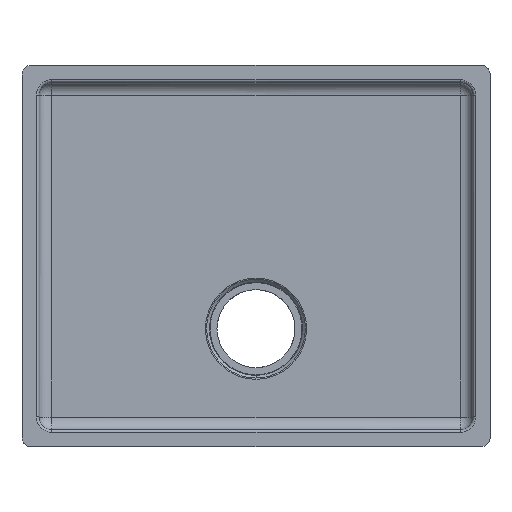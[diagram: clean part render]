
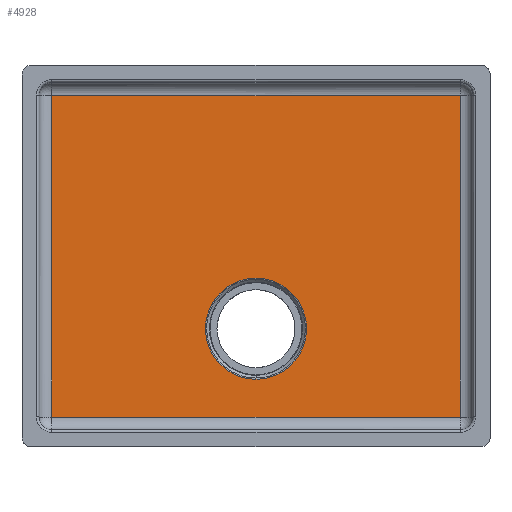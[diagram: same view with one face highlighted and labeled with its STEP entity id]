
A CAD part, top view. The second image highlights one B-rep face of the part: STEP entity #4928.
In plain terms, the highlighted planar face has unit normal (0, 0, 1).
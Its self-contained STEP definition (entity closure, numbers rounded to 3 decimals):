
#4638=CARTESIAN_POINT('Vertex',(0.,-25.172,-195.)) ;
#4642=CARTESIAN_POINT('Control Point',(0.,-25.172,-195.)) ;
#4643=CARTESIAN_POINT('Control Point',(-0.181,-25.172,-195.)) ;
#4644=CARTESIAN_POINT('Control Point',(-0.361,-25.172,-195.)) ;
#4645=CARTESIAN_POINT('Control Point',(-0.542,-25.174,-195.)) ;
#4646=CARTESIAN_POINT('Control Point',(-6.437,-25.242,-195.)) ;
#4647=CARTESIAN_POINT('Control Point',(-12.32,-26.055,-195.)) ;
#4648=CARTESIAN_POINT('Control Point',(-17.897,-27.542,-195.)) ;
#4649=CARTESIAN_POINT('Control Point',(-28.513,-31.825,-195.)) ;
#4650=CARTESIAN_POINT('Control Point',(-37.79,-38.528,-195.)) ;
#4651=CARTESIAN_POINT('Control Point',(-41.974,-42.406,-195.)) ;
#4652=CARTESIAN_POINT('Control Point',(-49.322,-51.099,-195.)) ;
#4653=CARTESIAN_POINT('Control Point',(-54.383,-61.295,-195.)) ;
#4654=CARTESIAN_POINT('Control Point',(-56.28,-66.676,-195.)) ;
#4655=CARTESIAN_POINT('Control Point',(-58.735,-77.789,-195.)) ;
#4656=CARTESIAN_POINT('Control Point',(-58.468,-89.165,-195.)) ;
#4657=CARTESIAN_POINT('Control Point',(-57.642,-94.81,-195.)) ;
#4658=CARTESIAN_POINT('Control Point',(-54.829,-105.102,-195.)) ;
#4659=CARTESIAN_POINT('Control Point',(-49.788,-114.488,-195.)) ;
#4660=CARTESIAN_POINT('Control Point',(-46.979,-118.601,-195.)) ;
#4661=CARTESIAN_POINT('Control Point',(-38.057,-129.075,-195.)) ;
#4662=CARTESIAN_POINT('Control Point',(-26.373,-136.64,-195.)) ;
#4663=CARTESIAN_POINT('Control Point',(-18.081,-140.003,-195.)) ;
#4664=CARTESIAN_POINT('Control Point',(-9.235,-141.757,-195.)) ;
#4665=CARTESIAN_POINT('Control Point',(-0.371,-141.827,-195.)) ;
#4666=CARTESIAN_POINT('Control Point',(-0.247,-141.828,-195.)) ;
#4667=CARTESIAN_POINT('Control Point',(-0.124,-141.828,-195.)) ;
#4668=CARTESIAN_POINT('Control Point',(0.,-141.828,-195.)) ;
#4669=CARTESIAN_POINT('Vertex',(0.,-141.828,-195.)) ;
#4850=CARTESIAN_POINT('Control Point',(0.,-25.172,-195.)) ;
#4851=CARTESIAN_POINT('Control Point',(0.104,-25.172,-195.)) ;
#4852=CARTESIAN_POINT('Control Point',(0.208,-25.172,-195.)) ;
#4853=CARTESIAN_POINT('Control Point',(0.313,-25.172,-195.)) ;
#4854=CARTESIAN_POINT('Control Point',(6.597,-25.214,-195.)) ;
#4855=CARTESIAN_POINT('Control Point',(12.874,-26.103,-195.)) ;
#4856=CARTESIAN_POINT('Control Point',(18.894,-27.794,-195.)) ;
#4857=CARTESIAN_POINT('Control Point',(29.85,-32.517,-195.)) ;
#4858=CARTESIAN_POINT('Control Point',(39.269,-39.814,-195.)) ;
#4859=CARTESIAN_POINT('Control Point',(43.321,-43.829,-195.)) ;
#4860=CARTESIAN_POINT('Control Point',(50.375,-52.762,-195.)) ;
#4861=CARTESIAN_POINT('Control Point',(55.093,-63.121,-195.)) ;
#4862=CARTESIAN_POINT('Control Point',(56.81,-68.562,-195.)) ;
#4863=CARTESIAN_POINT('Control Point',(58.893,-79.75,-195.)) ;
#4864=CARTESIAN_POINT('Control Point',(58.246,-91.112,-195.)) ;
#4865=CARTESIAN_POINT('Control Point',(57.233,-96.726,-195.)) ;
#4866=CARTESIAN_POINT('Control Point',(53.867,-107.598,-195.)) ;
#4867=CARTESIAN_POINT('Control Point',(48.004,-117.355,-195.)) ;
#4868=CARTESIAN_POINT('Control Point',(44.493,-121.852,-195.)) ;
#4869=CARTESIAN_POINT('Control Point',(35.071,-131.291,-195.)) ;
#4870=CARTESIAN_POINT('Control Point',(23.33,-137.776,-195.)) ;
#4871=CARTESIAN_POINT('Control Point',(16.046,-140.357,-195.)) ;
#4872=CARTESIAN_POINT('Control Point',(8.298,-141.738,-195.)) ;
#4873=CARTESIAN_POINT('Control Point',(0.529,-141.826,-195.)) ;
#4874=CARTESIAN_POINT('Control Point',(0.353,-141.828,-195.)) ;
#4875=CARTESIAN_POINT('Control Point',(0.176,-141.828,-195.)) ;
#4876=CARTESIAN_POINT('Control Point',(0.,-141.828,-195.)) ;
#4885=CARTESIAN_POINT('Axis2P3D Location',(-235.5,200.5,-195.)) ;
#4890=CARTESIAN_POINT('Line Origine',(-235.5,200.5,-195.)) ;
#4894=CARTESIAN_POINT('Vertex',(-235.5,-185.5,-195.)) ;
#4896=CARTESIAN_POINT('Vertex',(-235.5,185.5,-195.)) ;
#4899=CARTESIAN_POINT('Line Origine',(-235.5,-185.5,-195.)) ;
#4903=CARTESIAN_POINT('Vertex',(235.5,-185.5,-195.)) ;
#4906=CARTESIAN_POINT('Line Origine',(235.5,200.5,-195.)) ;
#4910=CARTESIAN_POINT('Vertex',(235.5,185.5,-195.)) ;
#4913=CARTESIAN_POINT('Line Origine',(-235.5,185.5,-195.)) ;
#4886=DIRECTION('Axis2P3D Direction',(0.,0.,-1.)) ;
#4887=DIRECTION('Axis2P3D XDirection',(0.,1.,0.)) ;
#4891=DIRECTION('Vector Direction',(0.,1.,0.)) ;
#4900=DIRECTION('Vector Direction',(1.,0.,0.)) ;
#4907=DIRECTION('Vector Direction',(0.,1.,0.)) ;
#4914=DIRECTION('Vector Direction',(1.,0.,0.)) ;
#4888=AXIS2_PLACEMENT_3D('Plane Axis2P3D',#4885,#4886,#4887) ;
#4919=ORIENTED_EDGE('',*,*,#4898,.F.) ;
#4920=ORIENTED_EDGE('',*,*,#4905,.F.) ;
#4921=ORIENTED_EDGE('',*,*,#4912,.F.) ;
#4922=ORIENTED_EDGE('',*,*,#4917,.F.) ;
#4925=ORIENTED_EDGE('',*,*,#4877,.F.) ;
#4926=ORIENTED_EDGE('',*,*,#4671,.F.) ;
#4927=FACE_BOUND('',#4924,.T.) ;
#4892=VECTOR('Line Direction',#4891,1.) ;
#4901=VECTOR('Line Direction',#4900,1.) ;
#4908=VECTOR('Line Direction',#4907,1.) ;
#4915=VECTOR('Line Direction',#4914,1.) ;
#4928=ADVANCED_FACE('Vasca',(#4923,#4927),#4889,.F.) ;
#4641=B_SPLINE_CURVE_WITH_KNOTS('',5,(#4642,#4643,#4644,#4645,#4646,#4647,#4648,#4649,#4650,#4651,#4652,#4653,#4654,#4655,#4656,#4657,#4658,#4659,#4660,#4661,#4662,#4663,#4664,#4665,#4666,#4667,#4668),.UNSPECIFIED.,.F.,.U.,(6,3,3,3,3,3,3,3,6),(91.938,93.184,132.638,171.646,210.653,249.665,283.795,344.138,344.992),.UNSPECIFIED.) ;
#4849=B_SPLINE_CURVE_WITH_KNOTS('',5,(#4850,#4851,#4852,#4853,#4854,#4855,#4856,#4857,#4858,#4859,#4860,#4861,#4862,#4863,#4864,#4865,#4866,#4867,#4868,#4869,#4870,#4871,#4872,#4873,#4874,#4875,#4876),.UNSPECIFIED.,.F.,.U.,(6,3,3,3,3,3,3,3,6),(87.967,88.689,131.356,170.361,209.372,248.382,287.388,339.804,341.022),.UNSPECIFIED.) ;
#4671=EDGE_CURVE('',#4639,#4670,#4641,.T.) ;
#4877=EDGE_CURVE('',#4670,#4639,#4849,.F.) ;
#4898=EDGE_CURVE('',#4895,#4897,#4893,.T.) ;
#4905=EDGE_CURVE('',#4904,#4895,#4902,.F.) ;
#4912=EDGE_CURVE('',#4911,#4904,#4909,.F.) ;
#4917=EDGE_CURVE('',#4897,#4911,#4916,.T.) ;
#4918=EDGE_LOOP('',(#4919,#4920,#4921,#4922)) ;
#4924=EDGE_LOOP('',(#4925,#4926)) ;
#4923=FACE_OUTER_BOUND('',#4918,.T.) ;
#4893=LINE('Line',#4890,#4892) ;
#4902=LINE('Line',#4899,#4901) ;
#4909=LINE('Line',#4906,#4908) ;
#4916=LINE('Line',#4913,#4915) ;
#4889=PLANE('',#4888) ;
#4639=VERTEX_POINT('',#4638) ;
#4670=VERTEX_POINT('',#4669) ;
#4895=VERTEX_POINT('',#4894) ;
#4897=VERTEX_POINT('',#4896) ;
#4904=VERTEX_POINT('',#4903) ;
#4911=VERTEX_POINT('',#4910) ;
